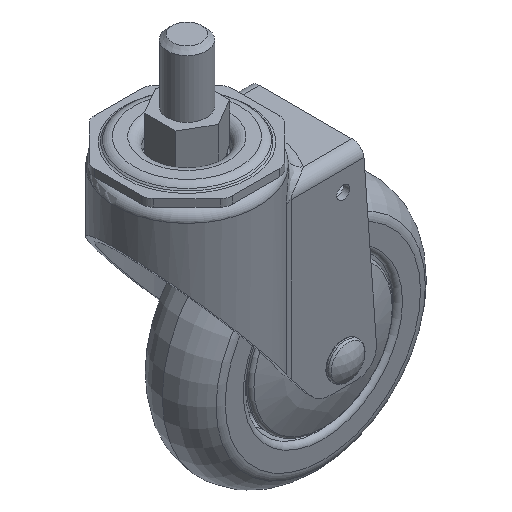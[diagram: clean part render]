
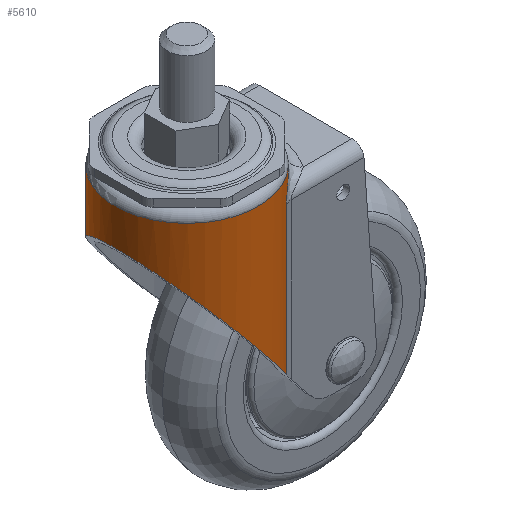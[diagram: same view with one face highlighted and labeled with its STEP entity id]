
A CAD part, isometric view. The second image highlights one B-rep face of the part: STEP entity #5610.
In plain terms, the highlighted cylindrical face has radius 29 mm (diameter 58 mm), a full revolution.
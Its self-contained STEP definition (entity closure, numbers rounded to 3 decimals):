
#29=ELLIPSE('',#6276,45.663,29.);
#98=B_SPLINE_CURVE_WITH_KNOTS('',3,(#11287,#11288,#11289,#11290,#11291,
#11292,#11293,#11294,#11295,#11296,#11297,#11298,#11299,#11300),
 .UNSPECIFIED.,.F.,.F.,(4,2,2,2,2,2,4),(0.,3.172,6.345,
11.548,12.064,15.638,17.872),
 .UNSPECIFIED.);
#99=B_SPLINE_CURVE_WITH_KNOTS('',3,(#11391,#11392,#11393,#11394,#11395,
#11396,#11397,#11398,#11399,#11400,#11401,#11402,#11403,#11404,#11405,#11406,
#11407,#11408,#11409,#11410,#11411,#11412,#11413,#11414,#11415,#11416,#11417,
#11418),.UNSPECIFIED.,.F.,.F.,(4,3,3,3,3,3,3,3,3,4),(0.,3.104,
4.68,8.022,9.875,12.603,13.405,
15.611,16.99,17.852),.UNSPECIFIED.);
#327=LINE('',#11210,#611);
#329=LINE('',#11421,#613);
#611=VECTOR('',#7756,59.639);
#613=VECTOR('',#7772,59.639);
#776=CYLINDRICAL_SURFACE('',#6294,29.);
#1069=FACE_BOUND('',#1932,.T.);
#1418=FACE_OUTER_BOUND('',#1931,.T.);
#1931=EDGE_LOOP('',(#4887));
#1932=EDGE_LOOP('',(#4888,#4889,#4890,#4891,#4892,#4893));
#2314=CIRCLE('',#6246,29.);
#2336=CIRCLE('',#6295,29.);
#2792=VERTEX_POINT('',#11207);
#2793=VERTEX_POINT('',#11209);
#2794=VERTEX_POINT('',#11285);
#2795=VERTEX_POINT('',#11302);
#2796=VERTEX_POINT('',#11389);
#2797=VERTEX_POINT('',#11420);
#2831=VERTEX_POINT('',#11742);
#3481=EDGE_CURVE('',#2792,#2793,#327,.T.);
#3485=EDGE_CURVE('',#2793,#2794,#98,.T.);
#3486=EDGE_CURVE('',#2794,#2795,#2314,.T.);
#3489=EDGE_CURVE('',#2795,#2796,#99,.T.);
#3490=EDGE_CURVE('',#2796,#2797,#329,.T.);
#3528=EDGE_CURVE('',#2792,#2797,#29,.T.);
#3547=EDGE_CURVE('',#2831,#2831,#2336,.T.);
#4887=ORIENTED_EDGE('',*,*,#3547,.T.);
#4888=ORIENTED_EDGE('',*,*,#3486,.F.);
#4889=ORIENTED_EDGE('',*,*,#3485,.F.);
#4890=ORIENTED_EDGE('',*,*,#3481,.F.);
#4891=ORIENTED_EDGE('',*,*,#3528,.T.);
#4892=ORIENTED_EDGE('',*,*,#3490,.F.);
#4893=ORIENTED_EDGE('',*,*,#3489,.F.);
#5610=ADVANCED_FACE('',(#1418,#1069),#776,.T.);
#6246=AXIS2_PLACEMENT_3D('',#11303,#7764,#7765);
#6276=AXIS2_PLACEMENT_3D('',#11703,#7841,#7842);
#6294=AXIS2_PLACEMENT_3D('',#11741,#7887,#7888);
#6295=AXIS2_PLACEMENT_3D('',#11743,#7889,#7890);
#7756=DIRECTION('',(0.,0.,1.));
#7764=DIRECTION('center_axis',(0.,0.,-1.));
#7765=DIRECTION('ref_axis',(1.,0.,0.));
#7772=DIRECTION('',(0.,0.,-1.));
#7841=DIRECTION('center_axis',(0.772,0.,0.635));
#7842=DIRECTION('ref_axis',(-0.635,0.,0.772));
#7887=DIRECTION('center_axis',(0.,0.,-1.));
#7888=DIRECTION('ref_axis',(-1.,0.,0.));
#7889=DIRECTION('center_axis',(0.,0.,-1.));
#7890=DIRECTION('ref_axis',(-1.,0.,0.));
#11207=CARTESIAN_POINT('',(-4.493,85.77,-74.889));
#11209=CARTESIAN_POINT('',(-4.493,85.77,-15.25));
#11210=CARTESIAN_POINT('',(-4.493,85.77,-74.889));
#11285=CARTESIAN_POINT('',(3.561,77.667,-5.75));
#11287=CARTESIAN_POINT('Ctrl Pts',(-4.493,85.77,-15.25));
#11288=CARTESIAN_POINT('Ctrl Pts',(-4.493,85.77,-14.192));
#11289=CARTESIAN_POINT('Ctrl Pts',(-4.253,85.612,-13.145));
#11290=CARTESIAN_POINT('Ctrl Pts',(-3.513,85.088,-11.314));
#11291=CARTESIAN_POINT('Ctrl Pts',(-3.017,84.723,-10.5));
#11292=CARTESIAN_POINT('Ctrl Pts',(-1.628,83.61,-8.639));
#11293=CARTESIAN_POINT('Ctrl Pts',(-0.66,82.748,-7.726));
#11294=CARTESIAN_POINT('Ctrl Pts',(0.381,81.663,-6.984));
#11295=CARTESIAN_POINT('Ctrl Pts',(0.475,81.564,-6.92));
#11296=CARTESIAN_POINT('Ctrl Pts',(1.216,80.77,-6.426));
#11297=CARTESIAN_POINT('Ctrl Pts',(1.855,80.017,-6.108));
#11298=CARTESIAN_POINT('Ctrl Pts',(2.843,78.715,-5.811));
#11299=CARTESIAN_POINT('Ctrl Pts',(3.211,78.197,-5.75));
#11300=CARTESIAN_POINT('Ctrl Pts',(3.561,77.667,-5.75));
#11302=CARTESIAN_POINT('',(3.561,45.682,-5.75));
#11303=CARTESIAN_POINT('Origin',(-20.63,61.675,-5.75));
#11389=CARTESIAN_POINT('',(-4.493,37.579,-15.25));
#11391=CARTESIAN_POINT('Ctrl Pts',(3.561,45.682,-5.75));
#11392=CARTESIAN_POINT('Ctrl Pts',(3.075,44.946,-5.75));
#11393=CARTESIAN_POINT('Ctrl Pts',(2.555,44.233,-5.866));
#11394=CARTESIAN_POINT('Ctrl Pts',(2.015,43.558,-6.082));
#11395=CARTESIAN_POINT('Ctrl Pts',(1.74,43.215,-6.191));
#11396=CARTESIAN_POINT('Ctrl Pts',(1.461,42.882,-6.326));
#11397=CARTESIAN_POINT('Ctrl Pts',(1.178,42.559,-6.484));
#11398=CARTESIAN_POINT('Ctrl Pts',(0.578,41.875,-6.819));
#11399=CARTESIAN_POINT('Ctrl Pts',(-0.036,41.24,
-7.254));
#11400=CARTESIAN_POINT('Ctrl Pts',(-0.643,40.662,
-7.79));
#11401=CARTESIAN_POINT('Ctrl Pts',(-0.98,40.342,
-8.087));
#11402=CARTESIAN_POINT('Ctrl Pts',(-1.315,40.039,-8.415));
#11403=CARTESIAN_POINT('Ctrl Pts',(-1.644,39.754,-8.773));
#11404=CARTESIAN_POINT('Ctrl Pts',(-2.128,39.334,-9.301));
#11405=CARTESIAN_POINT('Ctrl Pts',(-2.597,38.957,-9.892));
#11406=CARTESIAN_POINT('Ctrl Pts',(-3.018,38.635,-10.559));
#11407=CARTESIAN_POINT('Ctrl Pts',(-3.142,38.54,-10.755));
#11408=CARTESIAN_POINT('Ctrl Pts',(-3.262,38.45,-10.958));
#11409=CARTESIAN_POINT('Ctrl Pts',(-3.377,38.365,-11.167));
#11410=CARTESIAN_POINT('Ctrl Pts',(-3.693,38.131,-11.744));
#11411=CARTESIAN_POINT('Ctrl Pts',(-3.973,37.935,-12.38));
#11412=CARTESIAN_POINT('Ctrl Pts',(-4.172,37.798,-13.059));
#11413=CARTESIAN_POINT('Ctrl Pts',(-4.296,37.712,-13.483));
#11414=CARTESIAN_POINT('Ctrl Pts',(-4.391,37.648,-13.93));
#11415=CARTESIAN_POINT('Ctrl Pts',(-4.443,37.612,-14.388));
#11416=CARTESIAN_POINT('Ctrl Pts',(-4.477,37.59,-14.674));
#11417=CARTESIAN_POINT('Ctrl Pts',(-4.493,37.579,-14.963));
#11418=CARTESIAN_POINT('Ctrl Pts',(-4.493,37.579,-15.25));
#11420=CARTESIAN_POINT('',(-4.493,37.579,-74.889));
#11421=CARTESIAN_POINT('',(-4.493,37.579,-15.25));
#11703=CARTESIAN_POINT('Origin',(-20.63,61.675,-55.261));
#11741=CARTESIAN_POINT('Origin',(-20.63,61.675,-54.75));
#11742=CARTESIAN_POINT('',(8.37,61.675,-5.25));
#11743=CARTESIAN_POINT('Origin',(-20.63,61.675,-5.25));
